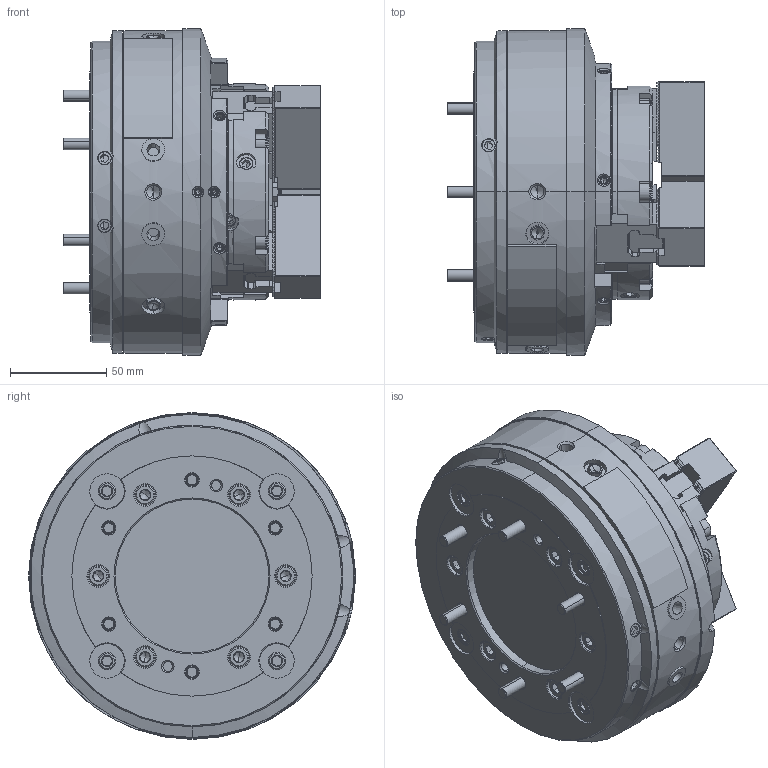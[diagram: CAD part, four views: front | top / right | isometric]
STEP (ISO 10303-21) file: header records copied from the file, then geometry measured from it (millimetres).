
FILE_DESCRIPTION (( 'STEP AP214' ), '1' );
FILE_NAME ('DEV-NRC04-HOL.STEP', '2024-10-03T04:16:44', ( '' ), ( '' ), 'SwSTEP 2.0', 'SolidWorks 2022', '' );
FILE_SCHEMA (( 'AUTOMOTIVE_DESIGN' ));
Length unit declared in the file: millimetre
Products named in the file (7): Copy of 0030106100^DEV-NRC04-クミタテ; Copy of 0693000001^DEV-NRC04-クミタテ; Copy of P31487^DEV-NRC04-クミタテ; DEV-NRC04-HOL; Copy of 0030108022^DEV-NRC04-クミタテ; Copy of 61P400832^DEV-NRC04-クミタテ; Part1^DEV-NRC04-クミタテ
Assembly tree (21 placements, depth 2):
  DEV-NRC04-HOL
    Copy of P31487^DEV-NRC04-クミタテ  x3
    Copy of 61P400832^DEV-NRC04-クミタテ  x3
    Copy of 0030106100^DEV-NRC04-クミタテ  x6
    Copy of 0030108022^DEV-NRC04-クミタテ  x6
    Copy of 0693000001^DEV-NRC04-クミタテ  x2
    Part1^DEV-NRC04-クミタテ
Bounding box: 134.2 x 170 x 170 mm (x, y, z)
Volume: 1709883.5 mm3; surface area: 188946.6 mm2
Topology: 21 solids, 51 shells, 4016 faces, 10715 edges, 6836 vertices
Faces by surface type: plane 2390, cylinder 882, cone 610, bspline 104, torus 20, sphere 10
Entity records: 102225 total; most frequent: CARTESIAN_POINT 29122, ORIENTED_EDGE 15812, DIRECTION 13786, EDGE_CURVE 7906, LINE 5140, VECTOR 5140, VERTEX_POINT 5123, AXIS2_PLACEMENT_3D 4323
